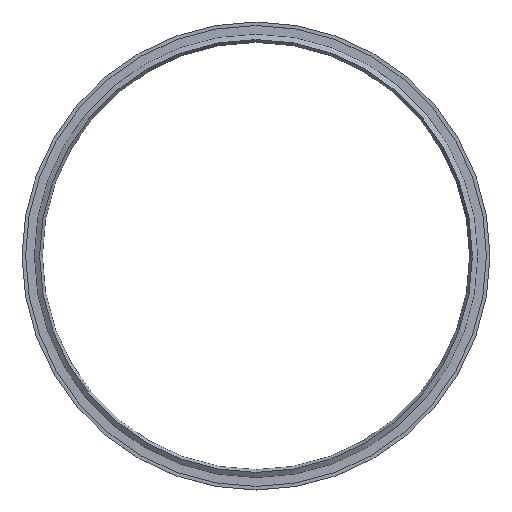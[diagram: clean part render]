
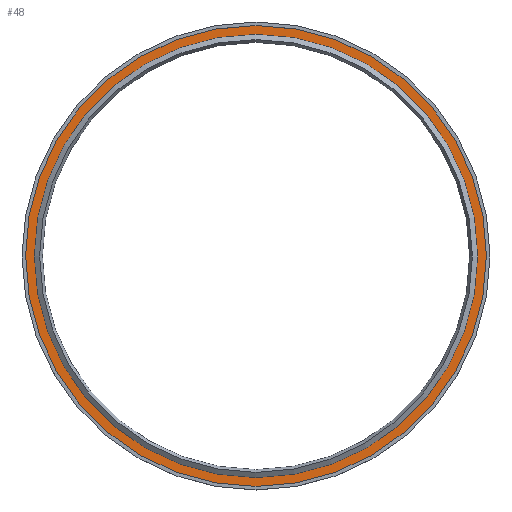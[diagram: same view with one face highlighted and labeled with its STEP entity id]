
A CAD part, top view. The second image highlights one B-rep face of the part: STEP entity #48.
In plain terms, the highlighted planar face has unit normal (0, 0, 1).
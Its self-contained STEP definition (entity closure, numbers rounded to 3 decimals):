
#48 = ADVANCED_FACE( '', ( #101, #102 ), #103, .T. );
#101 = FACE_BOUND( '', #156, .T. );
#102 = FACE_OUTER_BOUND( '', #157, .T. );
#103 = PLANE( '', #158 );
#156 = EDGE_LOOP( '', ( #217 ) );
#157 = EDGE_LOOP( '', ( #218 ) );
#158 = AXIS2_PLACEMENT_3D( '', #219, #220, #221 );
#217 = ORIENTED_EDGE( '', *, *, #261, .T. );
#218 = ORIENTED_EDGE( '', *, *, #258, .F. );
#219 = CARTESIAN_POINT( '', ( -65., 0., 4.75 ) );
#220 = DIRECTION( '', ( 0., 0., 1. ) );
#221 = DIRECTION( '', ( 1., 0., 0. ) );
#258 = EDGE_CURVE( '', #285, #285, #286, .T. );
#261 = EDGE_CURVE( '', #290, #290, #291, .T. );
#285 = VERTEX_POINT( '', #321 );
#286 = CIRCLE( '', #322, 65. );
#290 = VERTEX_POINT( '', #326 );
#291 = CIRCLE( '', #327, 62.5 );
#321 = CARTESIAN_POINT( '', ( -65., 0., 4.75 ) );
#322 = AXIS2_PLACEMENT_3D( '', #357, #358, #359 );
#326 = CARTESIAN_POINT( '', ( -62.5, 0., 4.75 ) );
#327 = AXIS2_PLACEMENT_3D( '', #363, #364, #365 );
#357 = CARTESIAN_POINT( '', ( 0., 0., 4.75 ) );
#358 = DIRECTION( '', ( 0., 0., -1. ) );
#359 = DIRECTION( '', ( -1., 0., 0. ) );
#363 = CARTESIAN_POINT( '', ( 0., 0., 4.75 ) );
#364 = DIRECTION( '', ( 0., 0., -1. ) );
#365 = DIRECTION( '', ( -1., 0., 0. ) );
